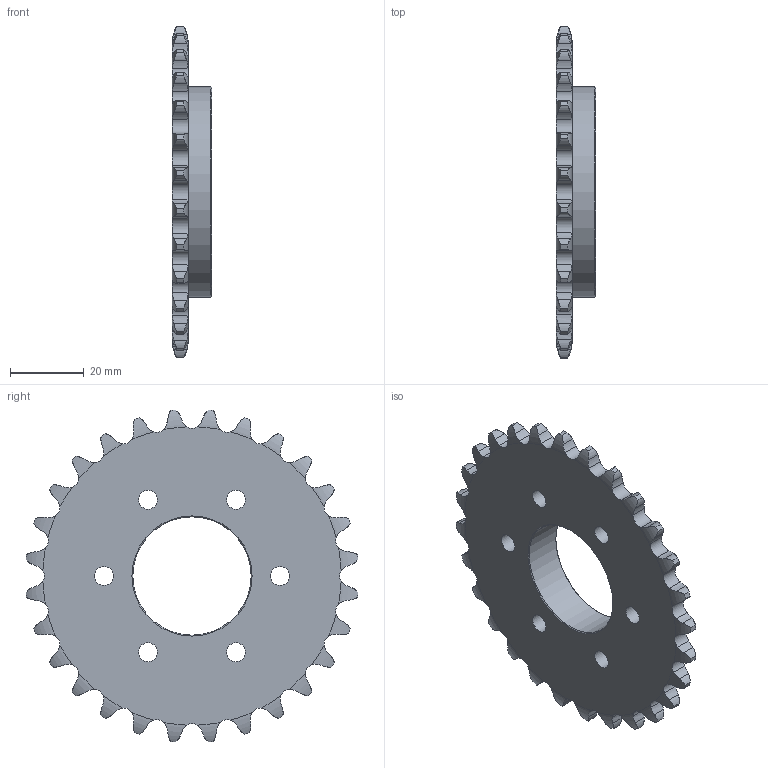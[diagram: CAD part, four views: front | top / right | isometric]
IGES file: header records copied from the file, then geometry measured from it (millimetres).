
Global section: file name: No Iges File Name specified; native system: AutoDesk Inventor R6.0; preprocessor: AutoDesk Inventor Iges Exporter R6.0; author: No Author specified; organization: No Organization specified; date: 20060207.215656; units: inch
Bounding box: 10.67 x 89.82 x 89.82 mm (x, y, z)
Surface area: 14051.5 mm2 (no closed solid volume)
Topology: 0 solids, 0 shells, 238 faces, 1400 edges, 1389 vertices
Faces by surface type: revolution 228, bspline 7, plane 3
